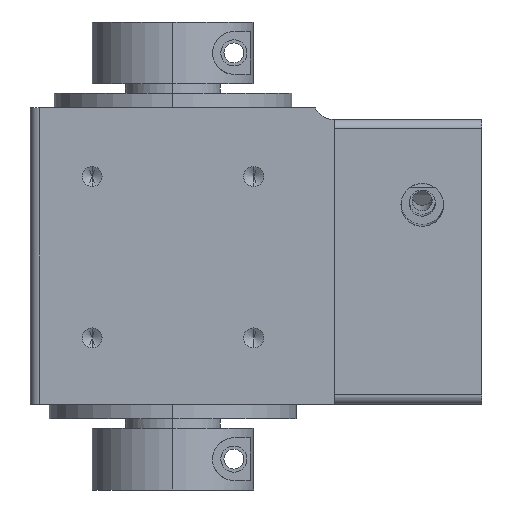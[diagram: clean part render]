
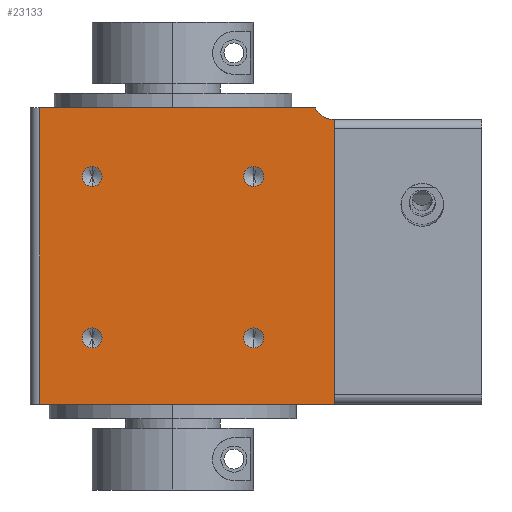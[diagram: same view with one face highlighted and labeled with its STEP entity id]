
A CAD part, left-side view. The second image highlights one B-rep face of the part: STEP entity #23133.
In plain terms, the highlighted planar face has unit normal (-1, 0, 0).
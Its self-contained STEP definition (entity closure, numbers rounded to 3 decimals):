
#282 = CARTESIAN_POINT ( 'NONE',  ( -30., 19., 17. ) ) ;
#338 = AXIS2_PLACEMENT_3D ( 'NONE', #16513, #2542, #18819 ) ;
#508 = ORIENTED_EDGE ( 'NONE', *, *, #19840, .F. ) ;
#639 = VERTEX_POINT ( 'NONE', #19316 ) ;
#874 = CARTESIAN_POINT ( 'NONE',  ( -30., 30., 68.5 ) ) ;
#876 = CIRCLE ( 'NONE', #22734, 2.1 ) ;
#950 = CARTESIAN_POINT ( 'NONE',  ( -30., 30., 3. ) ) ;
#987 = CARTESIAN_POINT ( 'NONE',  ( -30., -15., 19.1 ) ) ;
#1265 = CARTESIAN_POINT ( 'NONE',  ( -30., 30., 65.5 ) ) ;
#1282 = ORIENTED_EDGE ( 'NONE', *, *, #15485, .F. ) ;
#1330 = DIRECTION ( 'NONE',  ( 0., 0., 1. ) ) ;
#1583 = DIRECTION ( 'NONE',  ( 0., 0., -1. ) ) ;
#1661 = DIRECTION ( 'NONE',  ( -1., 0., 0. ) ) ;
#2251 = LINE ( 'NONE', #18399, #18638 ) ;
#2542 = DIRECTION ( 'NONE',  ( -1., 0., 0. ) ) ;
#2660 = DIRECTION ( 'NONE',  ( 0., 0., 1. ) ) ;
#2780 = EDGE_LOOP ( 'NONE', ( #508, #9313, #20057, #10508, #1282 ) ) ;
#2821 = EDGE_LOOP ( 'NONE', ( #22055, #27279 ) ) ;
#3045 = EDGE_CURVE ( 'NONE', #29050, #8832, #24366, .T. ) ;
#4073 = CARTESIAN_POINT ( 'NONE',  ( -30., -32., 65.5 ) ) ;
#4799 = ORIENTED_EDGE ( 'NONE', *, *, #5645, .F. ) ;
#4962 = VERTEX_POINT ( 'NONE', #5030 ) ;
#5030 = CARTESIAN_POINT ( 'NONE',  ( -30., -32., 3. ) ) ;
#5200 = EDGE_LOOP ( 'NONE', ( #4799, #11730 ) ) ;
#5451 = CARTESIAN_POINT ( 'NONE',  ( -30., -15., 48.9 ) ) ;
#5586 = FACE_BOUND ( 'NONE', #7058, .T. ) ;
#5645 = EDGE_CURVE ( 'NONE', #12681, #20641, #876, .T. ) ;
#5657 = EDGE_CURVE ( 'NONE', #19793, #8532, #19489, .T. ) ;
#6499 = EDGE_CURVE ( 'NONE', #8832, #29050, #23485, .T. ) ;
#6928 = AXIS2_PLACEMENT_3D ( 'NONE', #22924, #8956, #25261 ) ;
#7034 = CARTESIAN_POINT ( 'NONE',  ( -30., 19., 53.1 ) ) ;
#7058 = EDGE_LOOP ( 'NONE', ( #18140, #7779 ) ) ;
#7573 = DIRECTION ( 'NONE',  ( -1., 0., 0. ) ) ;
#7779 = ORIENTED_EDGE ( 'NONE', *, *, #6499, .F. ) ;
#7949 = EDGE_CURVE ( 'NONE', #26355, #639, #12141, .T. ) ;
#8208 = AXIS2_PLACEMENT_3D ( 'NONE', #21544, #7573, #23882 ) ;
#8429 = DIRECTION ( 'NONE',  ( 0., 0., -1. ) ) ;
#8532 = VERTEX_POINT ( 'NONE', #15496 ) ;
#8649 = CARTESIAN_POINT ( 'NONE',  ( -30., -32., 62.95 ) ) ;
#8694 = AXIS2_PLACEMENT_3D ( 'NONE', #22878, #8913, #25214 ) ;
#8832 = VERTEX_POINT ( 'NONE', #13306 ) ;
#8913 = DIRECTION ( 'NONE',  ( -1., 0., 0. ) ) ;
#8956 = DIRECTION ( 'NONE',  ( -1., 0., 0. ) ) ;
#9137 = DIRECTION ( 'NONE',  ( -1., 0., 0. ) ) ;
#9313 = ORIENTED_EDGE ( 'NONE', *, *, #29444, .F. ) ;
#9723 = LINE ( 'NONE', #874, #21403 ) ;
#10508 = ORIENTED_EDGE ( 'NONE', *, *, #21345, .T. ) ;
#10864 = CARTESIAN_POINT ( 'NONE',  ( -30., -32., 68.5 ) ) ;
#11035 = FACE_OUTER_BOUND ( 'NONE', #2780, .T. ) ;
#11730 = ORIENTED_EDGE ( 'NONE', *, *, #25894, .F. ) ;
#11774 = AXIS2_PLACEMENT_3D ( 'NONE', #23100, #9137, #25445 ) ;
#12141 = CIRCLE ( 'NONE', #18655, 2.1 ) ;
#12681 = VERTEX_POINT ( 'NONE', #7034 ) ;
#12694 = VERTEX_POINT ( 'NONE', #25783 ) ;
#13056 = VERTEX_POINT ( 'NONE', #8649 ) ;
#13299 = VECTOR ( 'NONE', #27275, 1000. ) ;
#13306 = CARTESIAN_POINT ( 'NONE',  ( -30., 19., 14.9 ) ) ;
#13330 = CARTESIAN_POINT ( 'NONE',  ( -30., 19., 51. ) ) ;
#13481 = CIRCLE ( 'NONE', #338, 2.1 ) ;
#14239 = CIRCLE ( 'NONE', #23978, 2.1 ) ;
#14488 = CIRCLE ( 'NONE', #8208, 4.5 ) ;
#14851 = DIRECTION ( 'NONE',  ( 0., 0., -1. ) ) ;
#15311 = DIRECTION ( 'NONE',  ( -1., 0., 0. ) ) ;
#15485 = EDGE_CURVE ( 'NONE', #4962, #26819, #2251, .T. ) ;
#15496 = CARTESIAN_POINT ( 'NONE',  ( -30., -27.944, 65.5 ) ) ;
#15571 = DIRECTION ( 'NONE',  ( 1., 0., 0. ) ) ;
#15646 = CARTESIAN_POINT ( 'NONE',  ( -30., -15., 17. ) ) ;
#15668 = ORIENTED_EDGE ( 'NONE', *, *, #24463, .F. ) ;
#15686 = DIRECTION ( 'NONE',  ( 0., 0., 1. ) ) ;
#16055 = CARTESIAN_POINT ( 'NONE',  ( -30., 19., 48.9 ) ) ;
#16295 = CIRCLE ( 'NONE', #11774, 2.1 ) ;
#16513 = CARTESIAN_POINT ( 'NONE',  ( -30., -15., 51. ) ) ;
#16637 = DIRECTION ( 'NONE',  ( -1., 0., 0. ) ) ;
#17236 = FACE_BOUND ( 'NONE', #20119, .T. ) ;
#17660 = AXIS2_PLACEMENT_3D ( 'NONE', #282, #16637, #2660 ) ;
#17958 = DIRECTION ( 'NONE',  ( 0., 0., 1. ) ) ;
#18140 = ORIENTED_EDGE ( 'NONE', *, *, #3045, .F. ) ;
#18317 = ORIENTED_EDGE ( 'NONE', *, *, #7949, .F. ) ;
#18399 = CARTESIAN_POINT ( 'NONE',  ( -30., -32., 3. ) ) ;
#18495 = LINE ( 'NONE', #24732, #19234 ) ;
#18638 = VECTOR ( 'NONE', #20763, 1000. ) ;
#18655 = AXIS2_PLACEMENT_3D ( 'NONE', #15646, #1661, #17958 ) ;
#18819 = DIRECTION ( 'NONE',  ( 0., 0., 1. ) ) ;
#19234 = VECTOR ( 'NONE', #8429, 1000. ) ;
#19316 = CARTESIAN_POINT ( 'NONE',  ( -30., -15., 14.9 ) ) ;
#19489 = LINE ( 'NONE', #4073, #13299 ) ;
#19793 = VERTEX_POINT ( 'NONE', #1265 ) ;
#19840 = EDGE_CURVE ( 'NONE', #13056, #4962, #18495, .T. ) ;
#20057 = ORIENTED_EDGE ( 'NONE', *, *, #5657, .F. ) ;
#20119 = EDGE_LOOP ( 'NONE', ( #18317, #15668 ) ) ;
#20139 = PLANE ( 'NONE',  #25070 ) ;
#20641 = VERTEX_POINT ( 'NONE', #16055 ) ;
#20763 = DIRECTION ( 'NONE',  ( 0., 1., 0. ) ) ;
#21345 = EDGE_CURVE ( 'NONE', #19793, #26819, #9723, .T. ) ;
#21403 = VECTOR ( 'NONE', #14851, 1000. ) ;
#21544 = CARTESIAN_POINT ( 'NONE',  ( -30., -32., 67.45 ) ) ;
#21696 = EDGE_CURVE ( 'NONE', #12694, #25790, #16295, .T. ) ;
#22055 = ORIENTED_EDGE ( 'NONE', *, *, #21696, .F. ) ;
#22734 = AXIS2_PLACEMENT_3D ( 'NONE', #13330, #29606, #15686 ) ;
#22878 = CARTESIAN_POINT ( 'NONE',  ( -30., -15., 17. ) ) ;
#22924 = CARTESIAN_POINT ( 'NONE',  ( -30., 19., 17. ) ) ;
#23100 = CARTESIAN_POINT ( 'NONE',  ( -30., -15., 51. ) ) ;
#23133 = ADVANCED_FACE ( 'NONE', ( #23459, #29628, #5586, #17236, #11035 ), #20139, .F. ) ;
#23459 = FACE_BOUND ( 'NONE', #2821, .T. ) ;
#23485 = CIRCLE ( 'NONE', #6928, 2.1 ) ;
#23882 = DIRECTION ( 'NONE',  ( 0., 0., 1. ) ) ;
#23918 = CARTESIAN_POINT ( 'NONE',  ( -30., 19., 19.1 ) ) ;
#23978 = AXIS2_PLACEMENT_3D ( 'NONE', #29262, #15311, #1330 ) ;
#24366 = CIRCLE ( 'NONE', #17660, 2.1 ) ;
#24463 = EDGE_CURVE ( 'NONE', #639, #26355, #28492, .T. ) ;
#24732 = CARTESIAN_POINT ( 'NONE',  ( -30., -32., 68.5 ) ) ;
#25070 = AXIS2_PLACEMENT_3D ( 'NONE', #10864, #15571, #1583 ) ;
#25214 = DIRECTION ( 'NONE',  ( 0., 0., 1. ) ) ;
#25261 = DIRECTION ( 'NONE',  ( 0., 0., 1. ) ) ;
#25445 = DIRECTION ( 'NONE',  ( 0., 0., 1. ) ) ;
#25783 = CARTESIAN_POINT ( 'NONE',  ( -30., -15., 53.1 ) ) ;
#25790 = VERTEX_POINT ( 'NONE', #5451 ) ;
#25894 = EDGE_CURVE ( 'NONE', #20641, #12681, #14239, .T. ) ;
#26355 = VERTEX_POINT ( 'NONE', #987 ) ;
#26622 = EDGE_CURVE ( 'NONE', #25790, #12694, #13481, .T. ) ;
#26819 = VERTEX_POINT ( 'NONE', #950 ) ;
#27275 = DIRECTION ( 'NONE',  ( 0., -1., 0. ) ) ;
#27279 = ORIENTED_EDGE ( 'NONE', *, *, #26622, .F. ) ;
#28492 = CIRCLE ( 'NONE', #8694, 2.1 ) ;
#29050 = VERTEX_POINT ( 'NONE', #23918 ) ;
#29262 = CARTESIAN_POINT ( 'NONE',  ( -30., 19., 51. ) ) ;
#29444 = EDGE_CURVE ( 'NONE', #8532, #13056, #14488, .T. ) ;
#29606 = DIRECTION ( 'NONE',  ( -1., 0., 0. ) ) ;
#29628 = FACE_BOUND ( 'NONE', #5200, .T. ) ;
